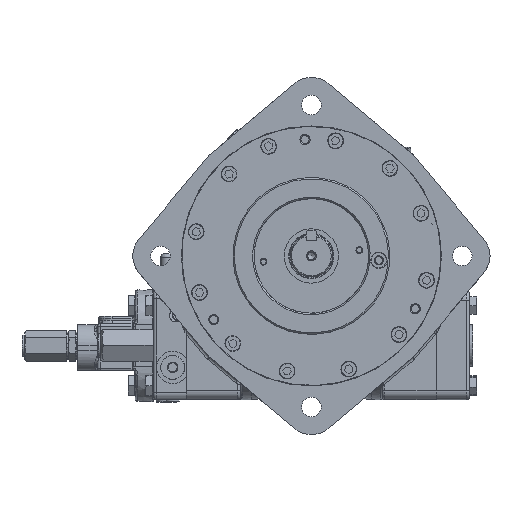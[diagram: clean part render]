
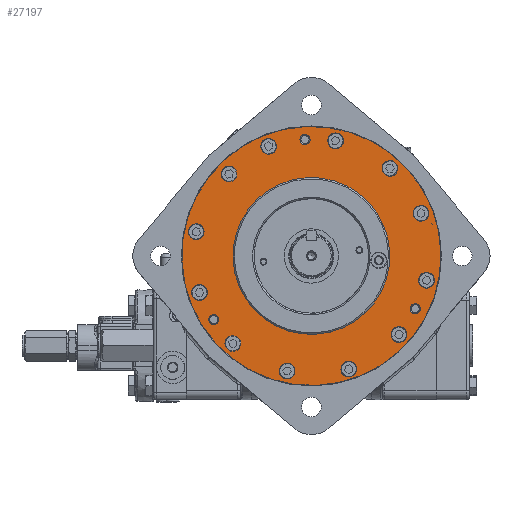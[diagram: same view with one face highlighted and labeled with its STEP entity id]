
A CAD part, top view. The second image highlights one B-rep face of the part: STEP entity #27197.
In plain terms, the highlighted planar face has unit normal (0, 0, 1).
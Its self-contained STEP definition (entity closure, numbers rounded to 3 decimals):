
#927=FACE_BOUND($,#8243,.T.);
#928=FACE_BOUND($,#8244,.T.);
#929=FACE_BOUND($,#8245,.T.);
#930=FACE_BOUND($,#8246,.T.);
#931=FACE_BOUND($,#8247,.T.);
#932=FACE_BOUND($,#8248,.T.);
#933=FACE_BOUND($,#8249,.T.);
#934=FACE_BOUND($,#8250,.T.);
#935=FACE_BOUND($,#8251,.T.);
#936=FACE_BOUND($,#8252,.T.);
#937=FACE_BOUND($,#8253,.T.);
#938=FACE_BOUND($,#8254,.T.);
#939=FACE_BOUND($,#8255,.T.);
#940=FACE_BOUND($,#8256,.T.);
#941=FACE_BOUND($,#8257,.T.);
#942=FACE_BOUND($,#8258,.T.);
#6203=FACE_OUTER_BOUND($,#8242,.T.);
#8242=EDGE_LOOP($,(#21043));
#8243=EDGE_LOOP($,(#21044));
#8244=EDGE_LOOP($,(#21045));
#8245=EDGE_LOOP($,(#21046));
#8246=EDGE_LOOP($,(#21047));
#8247=EDGE_LOOP($,(#21048));
#8248=EDGE_LOOP($,(#21049));
#8249=EDGE_LOOP($,(#21050));
#8250=EDGE_LOOP($,(#21051));
#8251=EDGE_LOOP($,(#21052));
#8252=EDGE_LOOP($,(#21053));
#8253=EDGE_LOOP($,(#21054));
#8254=EDGE_LOOP($,(#21055));
#8255=EDGE_LOOP($,(#21056));
#8256=EDGE_LOOP($,(#21057));
#8257=EDGE_LOOP($,(#21058));
#8258=EDGE_LOOP($,(#21059));
#10708=CIRCLE($,#29738,8.223);
#10709=CIRCLE($,#29740,136.271);
#10710=CIRCLE($,#29741,5.334);
#10711=CIRCLE($,#29742,5.334);
#10712=CIRCLE($,#29743,8.223);
#10713=CIRCLE($,#29744,8.223);
#10714=CIRCLE($,#29745,8.223);
#10715=CIRCLE($,#29746,8.223);
#10716=CIRCLE($,#29747,8.223);
#10717=CIRCLE($,#29748,8.223);
#10718=CIRCLE($,#29749,8.223);
#10719=CIRCLE($,#29750,8.223);
#10720=CIRCLE($,#29751,8.223);
#10721=CIRCLE($,#29752,8.223);
#10722=CIRCLE($,#29753,8.223);
#10723=CIRCLE($,#29754,5.334);
#10724=CIRCLE($,#29755,82.537);
#12531=VERTEX_POINT($,#55922);
#12532=VERTEX_POINT($,#55925);
#12533=VERTEX_POINT($,#55927);
#12534=VERTEX_POINT($,#55929);
#12535=VERTEX_POINT($,#55931);
#12536=VERTEX_POINT($,#55933);
#12537=VERTEX_POINT($,#55935);
#12538=VERTEX_POINT($,#55937);
#12539=VERTEX_POINT($,#55939);
#12540=VERTEX_POINT($,#55941);
#12541=VERTEX_POINT($,#55943);
#12542=VERTEX_POINT($,#55945);
#12543=VERTEX_POINT($,#55947);
#12544=VERTEX_POINT($,#55949);
#12545=VERTEX_POINT($,#55951);
#12546=VERTEX_POINT($,#55953);
#12547=VERTEX_POINT($,#55955);
#15700=EDGE_CURVE($,#12531,#12531,#10708,.T.);
#15701=EDGE_CURVE($,#12532,#12532,#10709,.T.);
#15702=EDGE_CURVE($,#12533,#12533,#10710,.T.);
#15703=EDGE_CURVE($,#12534,#12534,#10711,.T.);
#15704=EDGE_CURVE($,#12535,#12535,#10712,.T.);
#15705=EDGE_CURVE($,#12536,#12536,#10713,.T.);
#15706=EDGE_CURVE($,#12537,#12537,#10714,.T.);
#15707=EDGE_CURVE($,#12538,#12538,#10715,.T.);
#15708=EDGE_CURVE($,#12539,#12539,#10716,.T.);
#15709=EDGE_CURVE($,#12540,#12540,#10717,.T.);
#15710=EDGE_CURVE($,#12541,#12541,#10718,.T.);
#15711=EDGE_CURVE($,#12542,#12542,#10719,.T.);
#15712=EDGE_CURVE($,#12543,#12543,#10720,.T.);
#15713=EDGE_CURVE($,#12544,#12544,#10721,.T.);
#15714=EDGE_CURVE($,#12545,#12545,#10722,.T.);
#15715=EDGE_CURVE($,#12546,#12546,#10723,.T.);
#15716=EDGE_CURVE($,#12547,#12547,#10724,.T.);
#21043=ORIENTED_EDGE($,*,*,#15701,.F.);
#21044=ORIENTED_EDGE($,*,*,#15700,.F.);
#21045=ORIENTED_EDGE($,*,*,#15702,.F.);
#21046=ORIENTED_EDGE($,*,*,#15703,.F.);
#21047=ORIENTED_EDGE($,*,*,#15704,.F.);
#21048=ORIENTED_EDGE($,*,*,#15705,.F.);
#21049=ORIENTED_EDGE($,*,*,#15706,.F.);
#21050=ORIENTED_EDGE($,*,*,#15707,.F.);
#21051=ORIENTED_EDGE($,*,*,#15708,.F.);
#21052=ORIENTED_EDGE($,*,*,#15709,.F.);
#21053=ORIENTED_EDGE($,*,*,#15710,.F.);
#21054=ORIENTED_EDGE($,*,*,#15711,.F.);
#21055=ORIENTED_EDGE($,*,*,#15712,.F.);
#21056=ORIENTED_EDGE($,*,*,#15713,.F.);
#21057=ORIENTED_EDGE($,*,*,#15714,.F.);
#21058=ORIENTED_EDGE($,*,*,#15715,.F.);
#21059=ORIENTED_EDGE($,*,*,#15716,.F.);
#25877=PLANE($,#29739);
#27197=ADVANCED_FACE($,(#6203,#927,#928,#929,#930,#931,#932,#933,#934,#935,
#936,#937,#938,#939,#940,#941,#942),#25877,.F.);
#29738=AXIS2_PLACEMENT_3D($,#55923,#34498,#34499);
#29739=AXIS2_PLACEMENT_3D($,#55924,#34500,#34501);
#29740=AXIS2_PLACEMENT_3D($,#55926,#34502,#34503);
#29741=AXIS2_PLACEMENT_3D($,#55928,#34504,#34505);
#29742=AXIS2_PLACEMENT_3D($,#55930,#34506,#34507);
#29743=AXIS2_PLACEMENT_3D($,#55932,#34508,#34509);
#29744=AXIS2_PLACEMENT_3D($,#55934,#34510,#34511);
#29745=AXIS2_PLACEMENT_3D($,#55936,#34512,#34513);
#29746=AXIS2_PLACEMENT_3D($,#55938,#34514,#34515);
#29747=AXIS2_PLACEMENT_3D($,#55940,#34516,#34517);
#29748=AXIS2_PLACEMENT_3D($,#55942,#34518,#34519);
#29749=AXIS2_PLACEMENT_3D($,#55944,#34520,#34521);
#29750=AXIS2_PLACEMENT_3D($,#55946,#34522,#34523);
#29751=AXIS2_PLACEMENT_3D($,#55948,#34524,#34525);
#29752=AXIS2_PLACEMENT_3D($,#55950,#34526,#34527);
#29753=AXIS2_PLACEMENT_3D($,#55952,#34528,#34529);
#29754=AXIS2_PLACEMENT_3D($,#55954,#34530,#34531);
#29755=AXIS2_PLACEMENT_3D($,#55956,#34532,#34533);
#34498=DIRECTION('center_axis',(0.,0.,
1.));
#34499=DIRECTION('ref_axis',(-0.546,0.838,0.));
#34500=DIRECTION('center_axis',(0.,0.,
-1.));
#34501=DIRECTION('ref_axis',(-0.838,-0.546,0.));
#34502=DIRECTION('center_axis',(0.,0.,
-1.));
#34503=DIRECTION('ref_axis',(0.838,0.546,0.));
#34504=DIRECTION('center_axis',(0.,0.,
1.));
#34505=DIRECTION('ref_axis',(-0.546,0.838,0.));
#34506=DIRECTION('center_axis',(0.,0.,
1.));
#34507=DIRECTION('ref_axis',(0.546,-0.838,0.));
#34508=DIRECTION('center_axis',(0.,0.,
1.));
#34509=DIRECTION('ref_axis',(0.546,-0.838,0.));
#34510=DIRECTION('center_axis',(0.,0.,
1.));
#34511=DIRECTION('ref_axis',(0.546,-0.838,0.));
#34512=DIRECTION('center_axis',(0.,0.,
1.));
#34513=DIRECTION('ref_axis',(-0.546,0.838,0.));
#34514=DIRECTION('center_axis',(0.,0.,
1.));
#34515=DIRECTION('ref_axis',(0.546,-0.838,0.));
#34516=DIRECTION('center_axis',(0.,0.,
1.));
#34517=DIRECTION('ref_axis',(0.546,-0.838,0.));
#34518=DIRECTION('center_axis',(0.,0.,
1.));
#34519=DIRECTION('ref_axis',(-0.546,0.838,0.));
#34520=DIRECTION('center_axis',(0.,0.,
1.));
#34521=DIRECTION('ref_axis',(0.546,-0.838,0.));
#34522=DIRECTION('center_axis',(0.,0.,
1.));
#34523=DIRECTION('ref_axis',(0.546,-0.838,0.));
#34524=DIRECTION('center_axis',(0.,0.,
1.));
#34525=DIRECTION('ref_axis',(0.546,-0.838,0.));
#34526=DIRECTION('center_axis',(0.,0.,
1.));
#34527=DIRECTION('ref_axis',(0.546,-0.838,0.));
#34528=DIRECTION('center_axis',(0.,0.,
1.));
#34529=DIRECTION('ref_axis',(0.546,-0.838,0.));
#34530=DIRECTION('center_axis',(0.,0.,
1.));
#34531=DIRECTION('ref_axis',(0.546,-0.838,0.));
#34532=DIRECTION('center_axis',(0.,0.,
1.));
#34533=DIRECTION('ref_axis',(0.838,0.546,0.));
#55922=CARTESIAN_POINT('',(87.701,-75.781,0.051));
#55923=CARTESIAN_POINT('Origin',(92.194,-82.668,0.051));
#55924=CARTESIAN_POINT('Origin',(-91.634,-59.77,0.051));
#55925=CARTESIAN_POINT('',(114.137,74.448,0.051));
#55926=CARTESIAN_POINT('Origin',(0.,0.,
0.051));
#55927=CARTESIAN_POINT('',(-3.819,117.902,0.051));
#55928=CARTESIAN_POINT('Origin',(-6.733,122.37,0.051));
#55929=CARTESIAN_POINT('',(106.362,-51.016,0.051));
#55930=CARTESIAN_POINT('Origin',(109.276,-55.484,0.051));
#55931=CARTESIAN_POINT('',(-49.424,122.264,0.051));
#55932=CARTESIAN_POINT('Origin',(-44.931,115.377,0.051));
#55933=CARTESIAN_POINT('',(-91.112,93.192,0.051));
#55934=CARTESIAN_POINT('Origin',(-86.62,86.304,0.051));
#55935=CARTESIAN_POINT('',(29.992,114.278,0.051));
#55936=CARTESIAN_POINT('Origin',(25.5,121.166,0.051));
#55937=CARTESIAN_POINT('',(116.673,-18.612,0.051));
#55938=CARTESIAN_POINT('Origin',(121.166,-25.5,0.051));
#55939=CARTESIAN_POINT('',(78.176,99.081,0.051));
#55940=CARTESIAN_POINT('Origin',(82.668,92.194,0.051));
#55941=CARTESIAN_POINT('',(-116.673,18.612,0.051));
#55942=CARTESIAN_POINT('Origin',(-121.166,25.5,0.051));
#55943=CARTESIAN_POINT('',(34.865,-112.125,0.051));
#55944=CARTESIAN_POINT('Origin',(39.357,-119.012,0.051));
#55945=CARTESIAN_POINT('',(-29.992,-114.278,0.051));
#55946=CARTESIAN_POINT('Origin',(-25.5,-121.166,0.051));
#55947=CARTESIAN_POINT('',(-122.186,-31.61,0.051));
#55948=CARTESIAN_POINT('Origin',(-117.693,-38.497,0.051));
#55949=CARTESIAN_POINT('',(110.863,51.805,0.051));
#55950=CARTESIAN_POINT('Origin',(115.355,44.917,0.051));
#55951=CARTESIAN_POINT('',(-87.161,-85.306,0.051));
#55952=CARTESIAN_POINT('Origin',(-82.668,-92.194,0.051));
#55953=CARTESIAN_POINT('',(-105.669,-62.557,0.051));
#55954=CARTESIAN_POINT('Origin',(-102.755,-67.024,0.051));
#55955=CARTESIAN_POINT('',(-69.131,-45.092,0.051));
#55956=CARTESIAN_POINT('Origin',(0.,0.,
0.051));
